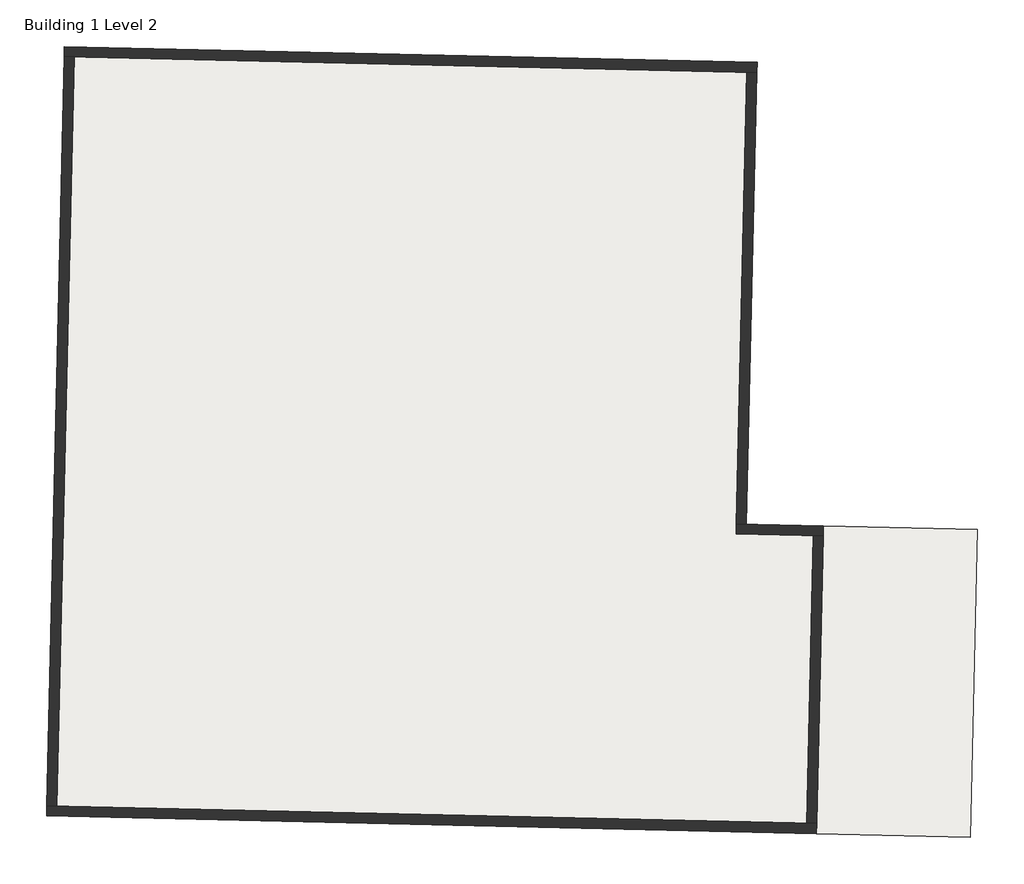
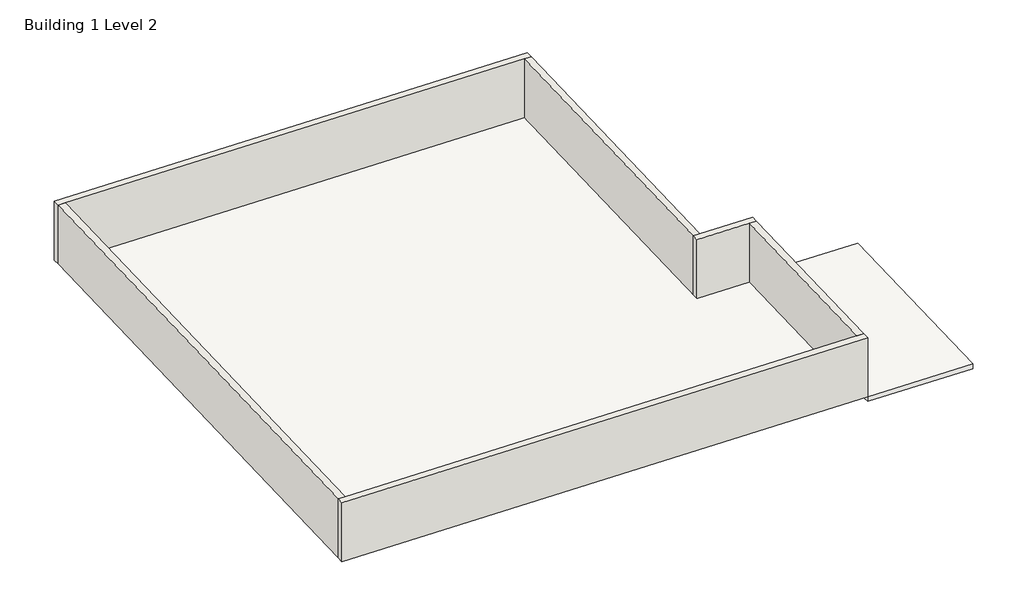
# One storey: 6 walls, 1 roof, 1 slab.
"""IFC4 building model written with IfcOpenShell, lengths in millimetres."""

from ifc_helpers import new_model, si_unit, origin, place, context, project, spatial, faceted_brep, element, save

model = new_model("IFC4")

# Units and contexts
model_context = context("Model", 3, world=origin())
ifc_project = project(units=[si_unit("LENGTHUNIT", "METRE", prefix="MILLI")], contexts=[model_context])

# Site, building, storey
site = spatial("IfcSite", under=ifc_project)
building = spatial("IfcBuilding", under=site)
storey = spatial("IfcBuildingStorey", under=building, Name="Building 1 Level 2", Elevation=4876.8)

# Roof
placement = place(None, origin())
element("IfcRoof", 1, ObjectType="Generic - 12\"", at=placement, inside=storey, context=model_context, shape_type="Brep", body=[
    faceted_brep([(16013.2158655, -9798.9783438, 4572.0), (9918.8263755, -9658.8614138, 4572.0), (9928.0203998, -9258.9670904, 4572.0), (10189.8662113, 2130.023236, 4572.0), (10199.0602355, 2529.9175562, 4572.0), (15893.5554021, 2398.9946505, 4572.0), (16293.4497255, 2389.8006262, 4572.0), (16022.4098898, -9399.0840204, 4572.0), (9918.8263755, -9658.8614138, 4876.8), (16013.2158655, -9798.9783438, 4876.8), (16293.4497255, 2389.8006262, 4876.8), (10199.0602355, 2529.9175562, 4876.8), (10189.8662113, 2130.023236, 4876.8), (9928.0203998, -9258.9670904, 4876.8)], [[[0, 1, 2, 3, 4, 5, 6, 7]], [[8, 9, 10, 11, 12, 13]], [[9, 8, 1, 0]], [[10, 9, 0, 7, 6]], [[11, 10, 6, 5, 4]], [[8, 13, 12, 11, 4, 3, 2, 1]]]),
])

# Slab
element("IfcSlab", 2, ObjectType="Generic - 12\"", at=placement, inside=storey, context=model_context, shape_type="Brep", body=[
    faceted_brep([(9928.0203998, -9258.9670904, 4572.0), (-2150.7876413, -8981.2615871, 4572.0), (-2370.7295192, -8976.2048737, 4572.0), (-20144.0327268, -8567.5764647, 4572.0), (-19461.8361253, 21104.5823384, 4572.0), (-1688.5329176, 20695.9539262, 4572.0), (-1468.5910397, 20690.8972128, 4572.0), (7163.1279376, 20492.4441971, 4572.0), (6742.7771376, 2209.2757272, 4572.0), (10189.8662113, 2130.023236, 4572.0), (-20144.0327268, -8567.5764647, 4876.8), (9928.0203998, -9258.9670904, 4876.8), (10189.8662113, 2130.023236, 4876.8), (6742.7771376, 2209.2757272, 4876.8), (6751.9711621, 2609.1700507, 4876.8), (7163.1279376, 20492.4441971, 4876.8), (-19461.8361253, 21104.5823384, 4876.8)], [[[0, 1, 2, 3, 4, 5, 6, 7, 8, 9]], [[10, 11, 12, 13, 14, 15, 16]], [[11, 0, 9, 12]], [[0, 11, 10, 3, 2, 1]], [[4, 16, 15, 7, 6, 5]], [[4, 3, 10, 16]], [[8, 13, 12, 9]], [[13, 8, 7, 15, 14]]]),
])

# Walls
element("IfcWall", 3, ObjectType="Exterior - 0.4m - Building 1", at=placement, inside=storey, context=model_context, shape_type="Brep", body=[
    faceted_brep([(-20553.1210745, -8958.2767638, 4876.8), (9918.8263755, -9658.8614138, 4876.8), (9918.8263755, -9658.8614138, 8534.4), (-20553.1210745, -8958.2767638, 8534.4), (-20543.9270502, -8558.3824404, 4876.8), (-20543.9270502, -8558.3824404, 8534.4), (-20144.0327268, -8567.5764647, 8534.4), (9528.1260764, -9249.7730661, 8534.4), (9928.0203998, -9258.9670904, 8534.4), (9928.0203998, -9258.9670904, 4876.8), (9528.1260764, -9249.7730661, 4876.8), (-20144.0327268, -8567.5764647, 4876.8)], [[[0, 1, 2, 3]], [[4, 5, 6, 7, 8, 9, 10, 11]], [[1, 0, 4, 11, 10, 9]], [[3, 2, 8, 7, 6, 5]], [[2, 1, 9, 8]], [[0, 3, 5, 4]]]),
])
element("IfcWall", 4, ObjectType="Exterior - 0.4m - Building 1", at=placement, inside=storey, context=model_context, shape_type="Brep", body=[
    faceted_brep([(7572.2162855, 20883.1444962, 4876.8), (-19852.5364245, 21513.6706862, 4876.8), (-19852.5364245, 21513.6706862, 8534.4), (7572.2162855, 20883.1444962, 8534.4), (7563.022261, 20483.2501727, 4876.8), (7563.022261, 20483.2501727, 8534.4), (7163.1279376, 20492.4441971, 8534.4), (-19461.8361253, 21104.5823384, 8534.4), (-19861.7304488, 21113.7763627, 8534.4), (-19861.7304488, 21113.7763627, 4876.8), (-19461.8361253, 21104.5823384, 4876.8), (7163.1279376, 20492.4441971, 4876.8)], [[[0, 1, 2, 3]], [[4, 5, 6, 7, 8, 9, 10, 11]], [[1, 0, 4, 11, 10, 9]], [[3, 2, 8, 7, 6, 5]], [[2, 1, 9, 8]], [[0, 3, 5, 4]]]),
])
element("IfcWall", 5, ObjectType="Exterior - 0.4m - Building 1", at=placement, inside=storey, context=model_context, shape_type="Brep", body=[
    faceted_brep([(-19861.7304488, 21113.7763627, 4876.8), (-20543.9270502, -8558.3824404, 4876.8), (-20543.9270502, -8558.3824404, 8534.4), (-19861.7304488, 21113.7763627, 8534.4), (-19461.8361253, 21104.5823384, 4876.8), (-19461.8361253, 21104.5823384, 8229.6), (-19461.8361253, 21104.5823384, 8534.4), (-20144.0327268, -8567.5764647, 8534.4), (-20144.0327268, -8567.5764647, 8229.6), (-20144.0327268, -8567.5764647, 4876.8)], [[[0, 1, 2, 3]], [[4, 5, 6, 7, 8, 9]], [[1, 0, 4, 9]], [[3, 2, 7, 6]], [[2, 1, 9, 8, 7]], [[0, 3, 6, 5, 4]]]),
])
element("IfcWall", 6, ObjectType="Exterior - 0.4m - Building 1", at=placement, inside=storey, context=model_context, shape_type="Brep", body=[
    faceted_brep([(10199.0602355, 2529.9175562, 4876.8), (7151.8654855, 2599.9760262, 4876.8), (6751.9711621, 2609.1700511, 4876.8), (6751.9711621, 2609.1700511, 8534.4), (7151.8654855, 2599.9760262, 8534.4), (10199.0602355, 2529.9175562, 8534.4), (10189.8662112, 2130.0232327, 4876.8), (10189.8662112, 2130.0232327, 8534.4), (9789.9718878, 2139.2172577, 8534.4), (6742.7771376, 2209.2757277, 8534.4), (6742.7771376, 2209.2757277, 8229.6), (6742.7771376, 2209.2757277, 4876.8), (9789.9718878, 2139.2172577, 4876.8)], [[[0, 1, 2, 3, 4, 5]], [[6, 7, 8, 9, 10, 11, 12]], [[2, 1, 0, 6, 12, 11]], [[5, 4, 3, 9, 8, 7]], [[0, 5, 7, 6]], [[3, 2, 11, 10, 9]]]),
])
element("IfcWall", 7, ObjectType="Exterior - 0.4m - Building 1", at=placement, inside=storey, context=model_context, shape_type="Brep", body=[
    faceted_brep([(7151.8654855, 2599.9760262, 4876.8), (7563.022261, 20483.2501727, 4876.8), (7563.022261, 20483.2501727, 8534.4), (7151.8654855, 2599.9760262, 8534.4), (6751.9711621, 2609.1700511, 4876.8), (6751.9711621, 2609.1700511, 8534.4), (7163.1279376, 20492.4441971, 8534.4), (7163.1279376, 20492.4441971, 8229.6), (7163.1279376, 20492.4441971, 4876.8)], [[[0, 1, 2, 3]], [[4, 5, 6, 7, 8]], [[1, 0, 4, 8]], [[3, 2, 6, 5]], [[2, 1, 8, 7, 6]], [[0, 3, 5, 4]]]),
])
element("IfcWall", 8, ObjectType="Exterior - 0.4m - Building 1", at=placement, inside=storey, context=model_context, shape_type="Brep", body=[
    faceted_brep([(9928.0203998, -9258.9670904, 4876.8), (10189.8662112, 2130.0232327, 4876.8), (10189.8662112, 2130.0232327, 8534.4), (9928.0203998, -9258.9670904, 8534.4), (9528.1260764, -9249.7730661, 4876.8), (9528.1260764, -9249.7730661, 8229.6), (9528.1260764, -9249.7730661, 8534.4), (9789.9718878, 2139.2172577, 8534.4), (9789.9718878, 2139.2172577, 8229.6), (9789.9718878, 2139.2172577, 4876.8)], [[[0, 1, 2, 3]], [[4, 5, 6, 7, 8, 9]], [[1, 0, 4, 9]], [[3, 2, 7, 6]], [[0, 3, 6, 5, 4]], [[2, 1, 9, 8, 7]]]),
])

save(model, "model.ifc")
